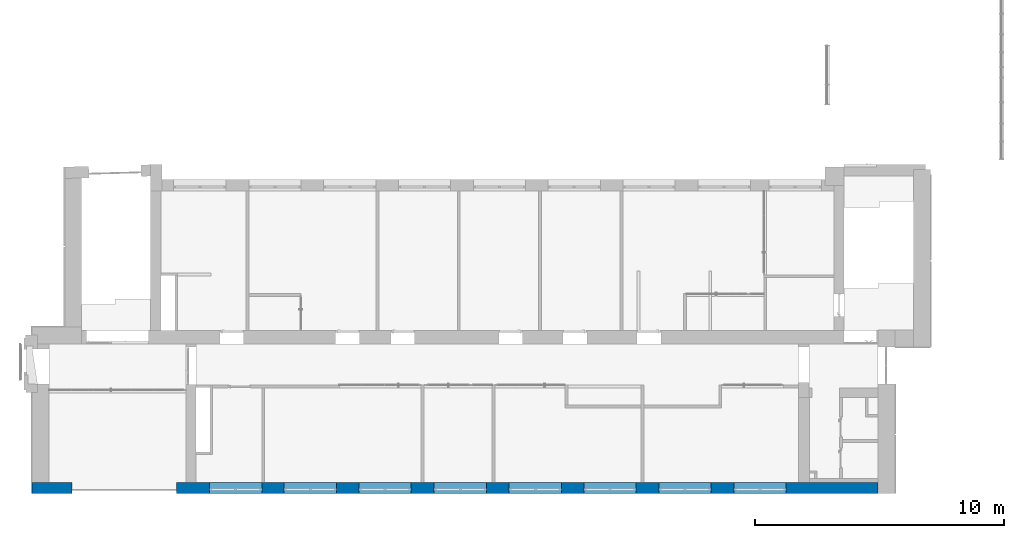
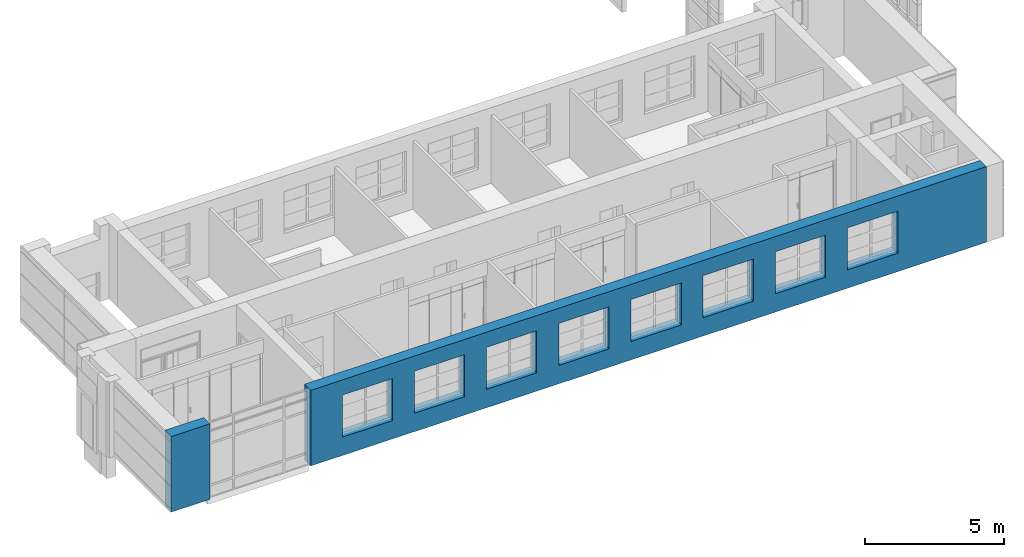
# One storey, part 53 of 73: 1 wall, 10 openings.
"""IFC2X3 building model written with IfcOpenShell, lengths in millimetres."""

from ifc_helpers import new_model, entity, si_unit, converted_unit, derived_unit, direction, frame, frame_2d, origin, origin_2d_with_axis, place, context, subcontext, project, spatial, rectangle, extrude, material, layer, layer_set, layer_usage, type_object, element, save


model = new_model("IFC2X3")

# Units and contexts
model_context = context("Model", 3, precision=0.01, world=origin(), true_north=direction((6.12303176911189e-17, 1.0)))
body_context = subcontext(model_context, "Body", "Model", "MODEL_VIEW")
ifc_project = project(units=[si_unit("LENGTHUNIT", "METRE", prefix="MILLI"), si_unit("AREAUNIT", "SQUARE_METRE"), si_unit("VOLUMEUNIT", "CUBIC_METRE"), converted_unit("PLANEANGLEUNIT", "DEGREE", entity("IfcRatioMeasure", 0.0174532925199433), si_unit("PLANEANGLEUNIT", "RADIAN"), dimensions=[0, 0, 0, 0, 0, 0, 0]), si_unit("MASSUNIT", "GRAM", prefix="KILO"), derived_unit("MASSDENSITYUNIT", [(si_unit("MASSUNIT", "GRAM", prefix="KILO"), 1), (si_unit("LENGTHUNIT", "METRE"), -3)]), si_unit("TIMEUNIT", "SECOND"), si_unit("FREQUENCYUNIT", "HERTZ"), si_unit("THERMODYNAMICTEMPERATUREUNIT", "DEGREE_CELSIUS"), derived_unit("THERMALTRANSMITTANCEUNIT", [(si_unit("MASSUNIT", "GRAM", prefix="KILO"), 1), (si_unit("THERMODYNAMICTEMPERATUREUNIT", "KELVIN"), -1), (si_unit("TIMEUNIT", "SECOND"), -3)]), derived_unit("VOLUMETRICFLOWRATEUNIT", [(si_unit("LENGTHUNIT", "METRE"), 3), (si_unit("TIMEUNIT", "SECOND"), -1)]), si_unit("ELECTRICCURRENTUNIT", "AMPERE"), si_unit("ELECTRICVOLTAGEUNIT", "VOLT"), si_unit("POWERUNIT", "WATT"), si_unit("FORCEUNIT", "NEWTON", prefix="KILO"), si_unit("ILLUMINANCEUNIT", "LUX"), si_unit("LUMINOUSFLUXUNIT", "LUMEN"), si_unit("LUMINOUSINTENSITYUNIT", "CANDELA"), derived_unit("USERDEFINED", [(si_unit("MASSUNIT", "GRAM", prefix="KILO"), -1), (si_unit("LENGTHUNIT", "METRE"), -2), (si_unit("TIMEUNIT", "SECOND"), 3), (si_unit("LUMINOUSFLUXUNIT", "LUMEN"), 1)]), derived_unit("LINEARVELOCITYUNIT", [(si_unit("LENGTHUNIT", "METRE"), 1), (si_unit("TIMEUNIT", "SECOND"), -1)]), si_unit("PRESSUREUNIT", "PASCAL"), derived_unit("USERDEFINED", [(si_unit("LENGTHUNIT", "METRE"), -2), (si_unit("MASSUNIT", "GRAM", prefix="KILO"), 1), (si_unit("TIMEUNIT", "SECOND"), -2)])], contexts=[model_context])

# Site, building, storey
site_placement = place(None, frame((-151.875543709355, 2715.0, 0.0)))
site = spatial("IfcSite", under=ifc_project, at=site_placement, Name="Surface", CompositionType="ELEMENT")
building_placement = place(site_placement, origin())
building = spatial("IfcBuilding", under=site, at=building_placement, CompositionType="ELEMENT")
storey_placement = place(building_placement, frame((0.0, 0.0, 6730.43000000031)))
storey = spatial("IfcBuildingStorey", under=building, at=storey_placement, Name="3 korrus", CompositionType="ELEMENT", Elevation=6730.43000000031)

# Wall, openings
ifc_material_1 = material(Name="Brick, Common")
ifc_layer_1 = layer(ifc_material_1, 440.0)
ifc_material_2 = material(Name="__Kips GN13_tava")
ifc_layer_2 = layer(ifc_material_2, 20.0)
ifc_layer_set = layer_set([ifc_layer_1, ifc_layer_2], Name="Basic Wall:VS-1")
ifc_layer_usage = layer_usage(ifc_layer_set, "AXIS2", "NEGATIVE", 230.0)
wall_type = type_object("IfcWallType", Name="Basic Wall:VS-1", PredefinedType="STANDARD", material=ifc_layer_set)
wall_placement = place(storey_placement, frame((33741.6162682, 229.904632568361, 0.00203353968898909), z_axis=(0.0, 0.0, 1.0), x_axis=(-1.0, 0.0, 0.0)))
wall = element("IfcWallStandardCase", 1, at=wall_placement, inside=storey, type_object=wall_type, material=ifc_layer_usage, Name="SEIN - 001", ObjectType="Basic Wall:VS-1", context=body_context, shape_type="SweptSolid", body=[
    extrude(rectangle(XDim=33960.7407226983, YDim=460.0, at=frame_2d((16980.3703613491, 0.0), x_axis=(-1.0, 0.0))), origin(), (0.0, 0.0, 1.0), 3329.56796646),
])
opening_1_placement = place(wall_placement, frame((33741.6162682, 229.904632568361, -0.00203353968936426), z_axis=(0.0, 0.0, 1.0), x_axis=(-1.0, 0.0, 0.0)))
element("IfcOpeningElement", 2, at=opening_1_placement, cuts=wall, Name="SEIN - 001", ObjectType="Opening", context=body_context, shape_type="SweptSolid", body=[
    extrude(rectangle(XDim=2934.86776352, YDim=4200.0, at=frame_2d((2.27373675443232e-13, -5.6843418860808e-13), x_axis=(0.0, 1.0))), frame((3483.85381698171, 928.104632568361, 1467.43591529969), z_axis=(0.0, -1.0, 0.0), x_axis=(-1.0, 0.0, 0.0)), (0.0, 0.0, 1.0), 1393.8),
])
opening_2_placement = place(wall_placement, frame((33741.6162682, 229.904632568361, -0.00203353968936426), z_axis=(0.0, 0.0, 1.0), x_axis=(-1.0, 0.0, 0.0)))
element("IfcOpeningElement", 3, at=opening_2_placement, cuts=wall, Name="SEIN - 001", ObjectType="Opening", context=body_context, shape_type="SweptSolid", body=[
    extrude(rectangle(XDim=394.700202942, YDim=4200.0, at=frame_2d((-5.40012479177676e-13, 0.0), x_axis=(1.0, 0.0))), frame((3483.85381698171, 928.104632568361, 3132.21989853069), z_axis=(0.0, -1.0, 0.0), x_axis=(0.0, 0.0, -1.0)), (0.0, 0.0, 1.0), 1393.8),
])
opening_3_placement = place(wall_placement, frame((33741.6162682, 229.904632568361, -0.00203353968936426), z_axis=(0.0, 0.0, 1.0), x_axis=(-1.0, 0.0, 0.0)))
element("IfcOpeningElement", 4, at=opening_3_placement, cuts=wall, Name="SEIN - 001", ObjectType="Opening", context=body_context, shape_type="SweptSolid", body=[
    extrude(rectangle(XDim=1850.0, YDim=2100.0, at=frame_2d((0.0, 1.02318153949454e-12), x_axis=(1.0, 0.0))), frame((10949.5647264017, 927.804632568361, 1734.63072998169), z_axis=(0.0, -1.0, 0.0), x_axis=(0.0, 0.0, 1.0)), (0.0, 0.0, 1.0), 1393.8),
])
opening_4_placement = place(wall_placement, frame((33741.6162682, 229.904632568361, -0.00203353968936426), z_axis=(0.0, 0.0, 1.0), x_axis=(-1.0, 0.0, 0.0)))
element("IfcOpeningElement", 5, at=opening_4_placement, cuts=wall, Name="SEIN - 001", ObjectType="Opening", context=body_context, shape_type="SweptSolid", body=[
    extrude(rectangle(XDim=1850.0, YDim=2100.0, at=frame_2d((0.0, 5.6843418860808e-13), x_axis=(1.0, 0.0))), frame((7949.56472636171, 927.804632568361, 1734.63072998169), z_axis=(0.0, -1.0, 0.0), x_axis=(0.0, 0.0, 1.0)), (0.0, 0.0, 1.0), 1393.8),
])
opening_5_placement = place(wall_placement, frame((33741.6162682, 229.904632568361, -0.00203353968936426), z_axis=(0.0, 0.0, 1.0), x_axis=(-1.0, 0.0, 0.0)))
element("IfcOpeningElement", 6, at=opening_5_placement, cuts=wall, Name="SEIN - 001", ObjectType="Opening", context=body_context, shape_type="SweptSolid", body=[
    extrude(rectangle(XDim=1850.0, YDim=2100.0, at=origin_2d_with_axis()), frame((13949.5647264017, 927.804632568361, 1734.63072998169), z_axis=(0.0, -1.0, 0.0), x_axis=(0.0, 0.0, 1.0)), (0.0, 0.0, 1.0), 1393.8),
])
opening_6_placement = place(wall_placement, frame((33741.6162682, 229.904632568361, -0.00203353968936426), z_axis=(0.0, 0.0, 1.0), x_axis=(-1.0, 0.0, 0.0)))
element("IfcOpeningElement", 7, at=opening_6_placement, cuts=wall, Name="SEIN - 001", ObjectType="Opening", context=body_context, shape_type="SweptSolid", body=[
    extrude(rectangle(XDim=1850.0, YDim=2100.0, at=frame_2d((0.0, 1.02318153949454e-12), x_axis=(1.0, 0.0))), frame((16969.5647264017, 927.804632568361, 1734.63072998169), z_axis=(0.0, -1.0, 0.0), x_axis=(0.0, 0.0, 1.0)), (0.0, 0.0, 1.0), 1393.8),
])
opening_7_placement = place(wall_placement, frame((33741.6162682, 229.904632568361, -0.00203353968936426), z_axis=(0.0, 0.0, 1.0), x_axis=(-1.0, 0.0, 0.0)))
element("IfcOpeningElement", 8, at=opening_7_placement, cuts=wall, Name="SEIN - 001", ObjectType="Opening", context=body_context, shape_type="SweptSolid", body=[
    extrude(rectangle(XDim=1850.0, YDim=2100.0, at=origin_2d_with_axis()), frame((19979.5647264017, 927.804632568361, 1734.63072998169), z_axis=(0.0, -1.0, 0.0), x_axis=(0.0, 0.0, 1.0)), (0.0, 0.0, 1.0), 1393.8),
])
opening_8_placement = place(wall_placement, frame((33741.6162682, 229.904632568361, -0.00203353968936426), z_axis=(0.0, 0.0, 1.0), x_axis=(-1.0, 0.0, 0.0)))
element("IfcOpeningElement", 9, at=opening_8_placement, cuts=wall, Name="SEIN - 001", ObjectType="Opening", context=body_context, shape_type="SweptSolid", body=[
    extrude(rectangle(XDim=1850.0, YDim=2100.0, at=origin_2d_with_axis()), frame((22979.5647264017, 927.804632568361, 1734.63072998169), z_axis=(0.0, -1.0, 0.0), x_axis=(0.0, 0.0, 1.0)), (0.0, 0.0, 1.0), 1393.8),
])
opening_9_placement = place(wall_placement, frame((33741.6162682, 229.904632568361, -0.00203353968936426), z_axis=(0.0, 0.0, 1.0), x_axis=(-1.0, 0.0, 0.0)))
element("IfcOpeningElement", 10, at=opening_9_placement, cuts=wall, Name="SEIN - 001", ObjectType="Opening", context=body_context, shape_type="SweptSolid", body=[
    extrude(rectangle(XDim=1850.0, YDim=2100.0, at=origin_2d_with_axis()), frame((25989.5647264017, 927.804632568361, 1734.63072998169), z_axis=(0.0, -1.0, 0.0), x_axis=(0.0, 0.0, 1.0)), (0.0, 0.0, 1.0), 1393.8),
])
opening_10_placement = place(wall_placement, frame((33741.6162682, 229.904632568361, -0.00203353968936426), z_axis=(0.0, 0.0, 1.0), x_axis=(-1.0, 0.0, 0.0)))
element("IfcOpeningElement", 11, at=opening_10_placement, cuts=wall, Name="SEIN - 001", ObjectType="Opening", context=body_context, shape_type="SweptSolid", body=[
    extrude(rectangle(XDim=1850.0, YDim=2100.0, at=origin_2d_with_axis()), frame((28999.5647264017, 927.804632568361, 1734.63072998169), z_axis=(0.0, -1.0, 0.0), x_axis=(0.0, 0.0, 1.0)), (0.0, 0.0, 1.0), 1393.8),
])

save(model, "model.ifc")
